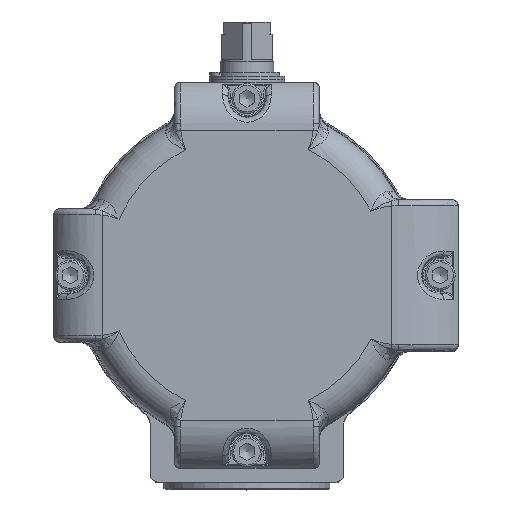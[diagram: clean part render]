
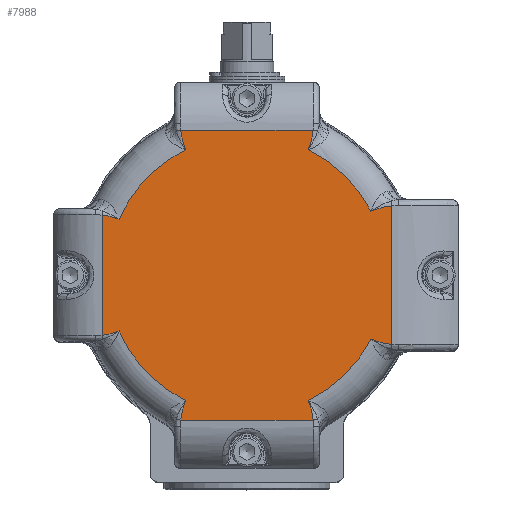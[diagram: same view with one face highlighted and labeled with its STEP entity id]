
A CAD part, top view. The second image highlights one B-rep face of the part: STEP entity #7988.
In plain terms, the highlighted planar face has unit normal (0, 0, 1).
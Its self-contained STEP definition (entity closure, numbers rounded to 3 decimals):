
#3375=CARTESIAN_POINT('',(21.909,-48.0,78.25));
#3376=VERTEX_POINT('',#3375);
#3384=CARTESIAN_POINT('',(-21.909,-48.0,78.25));
#3385=VERTEX_POINT('',#3384);
#3386=CARTESIAN_POINT('',(-21.909,-48.0,78.25));
#3387=DIRECTION('',(1.0,0.0,0.0));
#3388=VECTOR('',#3387,43.818);
#3389=LINE('',#3386,#3388);
#3390=EDGE_CURVE('',#3385,#3376,#3389,.T.);
#3700=CARTESIAN_POINT('',(-48.,-19.9,78.25));
#3701=VERTEX_POINT('',#3700);
#3711=CARTESIAN_POINT('',(-48.,19.9,78.25));
#3712=VERTEX_POINT('',#3711);
#3713=CARTESIAN_POINT('',(-48.,-19.9,78.25));
#3714=DIRECTION('',(0.0,1.0,0.0));
#3715=VECTOR('',#3714,39.799);
#3716=LINE('',#3713,#3715);
#3717=EDGE_CURVE('',#3701,#3712,#3716,.T.);
#4085=CARTESIAN_POINT('',(-21.909,48.,78.25));
#4086=VERTEX_POINT('',#4085);
#4087=CARTESIAN_POINT('',(21.909,48.,78.25));
#4088=VERTEX_POINT('',#4087);
#4089=CARTESIAN_POINT('',(-21.909,48.,78.25));
#4090=DIRECTION('',(1.0,0.0,0.0));
#4091=VECTOR('',#4090,43.818);
#4092=LINE('',#4089,#4091);
#4093=EDGE_CURVE('',#4086,#4088,#4092,.T.);
#4441=CARTESIAN_POINT('',(48.,22.913,78.25));
#4442=VERTEX_POINT('',#4441);
#4450=CARTESIAN_POINT('',(48.,-22.913,78.25));
#4451=VERTEX_POINT('',#4450);
#4452=CARTESIAN_POINT('',(48.,-22.913,78.25));
#4453=DIRECTION('',(0.0,1.0,0.0));
#4454=VECTOR('',#4453,45.826);
#4455=LINE('',#4452,#4454);
#4456=EDGE_CURVE('',#4451,#4442,#4455,.T.);
#4951=CARTESIAN_POINT('',(41.083,21.201,78.25));
#4952=VERTEX_POINT('',#4951);
#5285=CARTESIAN_POINT('',(20.305,41.533,78.25));
#5286=VERTEX_POINT('',#5285);
#5298=CARTESIAN_POINT('',(0.,0.,78.25));
#5299=DIRECTION('',(0.0,0.0,-1.0));
#5300=DIRECTION('',(1.0,0.0,0.0));
#5301=AXIS2_PLACEMENT_3D('',#5298,#5299,#5300);
#5302=CIRCLE('',#5301,46.231);
#5303=EDGE_CURVE('',#5286,#4952,#5302,.T.);
#5626=CARTESIAN_POINT('',(41.083,-21.201,78.25));
#5627=VERTEX_POINT('',#5626);
#5771=CARTESIAN_POINT('',(20.305,-41.533,78.25));
#5772=VERTEX_POINT('',#5771);
#5773=CARTESIAN_POINT('',(0.,0.,78.25));
#5774=DIRECTION('',(0.0,0.0,-1.0));
#5775=DIRECTION('',(1.0,0.0,0.0));
#5776=AXIS2_PLACEMENT_3D('',#5773,#5774,#5775);
#5777=CIRCLE('',#5776,46.231);
#5778=EDGE_CURVE('',#5627,#5772,#5777,.T.);
#6342=CARTESIAN_POINT('',(-20.305,-41.533,78.25));
#6343=VERTEX_POINT('',#6342);
#6487=CARTESIAN_POINT('',(-42.373,-18.489,78.25));
#6488=VERTEX_POINT('',#6487);
#6489=CARTESIAN_POINT('',(0.,0.,78.25));
#6490=DIRECTION('',(0.0,0.0,-1.0));
#6491=DIRECTION('',(1.0,0.0,0.0));
#6492=AXIS2_PLACEMENT_3D('',#6489,#6490,#6491);
#6493=CIRCLE('',#6492,46.231);
#6494=EDGE_CURVE('',#6343,#6488,#6493,.T.);
#7058=CARTESIAN_POINT('',(-42.373,18.489,78.25));
#7059=VERTEX_POINT('',#7058);
#7203=CARTESIAN_POINT('',(-20.305,41.533,78.25));
#7204=VERTEX_POINT('',#7203);
#7205=CARTESIAN_POINT('',(0.,0.,78.25));
#7206=DIRECTION('',(0.0,0.0,-1.0));
#7207=DIRECTION('',(1.0,0.0,0.0));
#7208=AXIS2_PLACEMENT_3D('',#7205,#7206,#7207);
#7209=CIRCLE('',#7208,46.231);
#7210=EDGE_CURVE('',#7059,#7204,#7209,.T.);
#7793=CARTESIAN_POINT('',(0.,50.,78.25));
#7794=DIRECTION('',(0.0,0.0,-1.0));
#7795=DIRECTION('',(0.971,-0.24,0.0));
#7796=AXIS2_PLACEMENT_3D('',#7793,#7794,#7795);
#7797=CIRCLE('',#7796,22.0);
#7798=EDGE_CURVE('',#4088,#5286,#7797,.T.);
#7899=CARTESIAN_POINT('',(-50.0,0.,78.25));
#7900=DIRECTION('',(0.0,0.0,-1.0));
#7901=DIRECTION('',(0.241,-0.971,0.0));
#7902=AXIS2_PLACEMENT_3D('',#7899,#7900,#7901);
#7903=CIRCLE('',#7902,20.);
#7904=EDGE_CURVE('',#6488,#3701,#7903,.T.);
#7929=CARTESIAN_POINT('',(23.115,0.,78.25));
#7930=DIRECTION('',(0.0,0.0,1.0));
#7931=DIRECTION('',(0.0,1.0,0.0));
#7932=AXIS2_PLACEMENT_3D('',#7929,#7930,#7931);
#7933=PLANE('',#7932);
#7934=ORIENTED_EDGE('',*,*,#4093,.F.);
#7935=CARTESIAN_POINT('',(0.,50.,78.25));
#7936=DIRECTION('',(0.0,0.0,-1.0));
#7937=DIRECTION('',(-0.971,-0.24,0.0));
#7938=AXIS2_PLACEMENT_3D('',#7935,#7936,#7937);
#7939=CIRCLE('',#7938,22.0);
#7940=EDGE_CURVE('',#7204,#4086,#7939,.T.);
#7941=ORIENTED_EDGE('',*,*,#7940,.F.);
#7942=ORIENTED_EDGE('',*,*,#7210,.F.);
#7943=CARTESIAN_POINT('',(-50.0,0.,78.25));
#7944=DIRECTION('',(0.0,0.0,-1.0));
#7945=DIRECTION('',(0.241,0.971,0.0));
#7946=AXIS2_PLACEMENT_3D('',#7943,#7944,#7945);
#7947=CIRCLE('',#7946,20.);
#7948=EDGE_CURVE('',#3712,#7059,#7947,.T.);
#7949=ORIENTED_EDGE('',*,*,#7948,.F.);
#7950=ORIENTED_EDGE('',*,*,#3717,.F.);
#7951=ORIENTED_EDGE('',*,*,#7904,.F.);
#7952=ORIENTED_EDGE('',*,*,#6494,.F.);
#7953=CARTESIAN_POINT('',(0.,-50.,78.25));
#7954=DIRECTION('',(0.0,0.0,-1.0));
#7955=DIRECTION('',(-0.971,0.24,0.0));
#7956=AXIS2_PLACEMENT_3D('',#7953,#7954,#7955);
#7957=CIRCLE('',#7956,22.);
#7958=EDGE_CURVE('',#3385,#6343,#7957,.T.);
#7959=ORIENTED_EDGE('',*,*,#7958,.F.);
#7960=ORIENTED_EDGE('',*,*,#3390,.T.);
#7961=CARTESIAN_POINT('',(0.,-50.,78.25));
#7962=DIRECTION('',(0.0,0.0,-1.0));
#7963=DIRECTION('',(0.971,0.24,0.0));
#7964=AXIS2_PLACEMENT_3D('',#7961,#7962,#7963);
#7965=CIRCLE('',#7964,22.);
#7966=EDGE_CURVE('',#5772,#3376,#7965,.T.);
#7967=ORIENTED_EDGE('',*,*,#7966,.F.);
#7968=ORIENTED_EDGE('',*,*,#5778,.F.);
#7969=CARTESIAN_POINT('',(50.0,0.,78.25));
#7970=DIRECTION('',(0.0,0.0,-1.0));
#7971=DIRECTION('',(-0.241,-0.971,0.0));
#7972=AXIS2_PLACEMENT_3D('',#7969,#7970,#7971);
#7973=CIRCLE('',#7972,23.);
#7974=EDGE_CURVE('',#4451,#5627,#7973,.T.);
#7975=ORIENTED_EDGE('',*,*,#7974,.F.);
#7976=ORIENTED_EDGE('',*,*,#4456,.T.);
#7977=CARTESIAN_POINT('',(50.0,0.,78.25));
#7978=DIRECTION('',(0.0,0.0,-1.0));
#7979=DIRECTION('',(-0.241,0.971,0.0));
#7980=AXIS2_PLACEMENT_3D('',#7977,#7978,#7979);
#7981=CIRCLE('',#7980,23.);
#7982=EDGE_CURVE('',#4952,#4442,#7981,.T.);
#7983=ORIENTED_EDGE('',*,*,#7982,.F.);
#7984=ORIENTED_EDGE('',*,*,#5303,.F.);
#7985=ORIENTED_EDGE('',*,*,#7798,.F.);
#7986=EDGE_LOOP('',(#7934,#7941,#7942,#7949,#7950,#7951,#7952,#7959,#7960,#7967,#7968,#7975,#7976,#7983,#7984,#7985));
#7987=FACE_OUTER_BOUND('',#7986,.T.);
#7988=ADVANCED_FACE('',(#7987),#7933,.T.);
